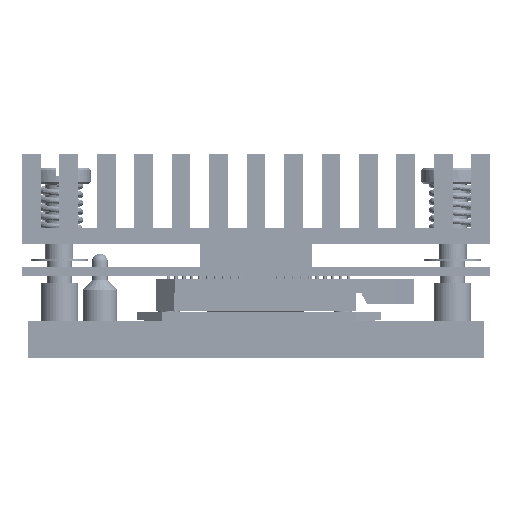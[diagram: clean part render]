
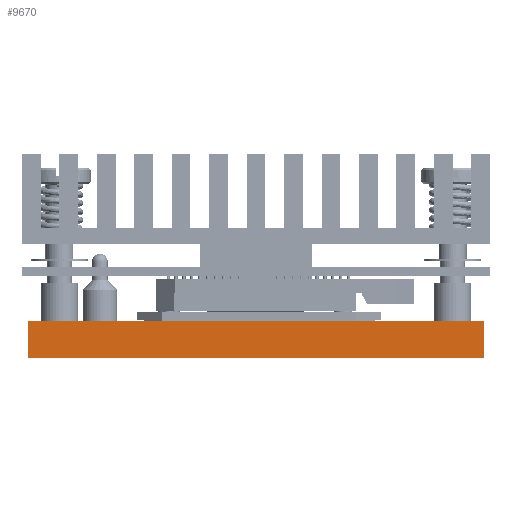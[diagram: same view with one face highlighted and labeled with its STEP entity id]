
A CAD part, front view. The second image highlights one B-rep face of the part: STEP entity #9670.
In plain terms, the highlighted planar face has unit normal (0, -1, 0).
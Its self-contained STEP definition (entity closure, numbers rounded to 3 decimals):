
#71 = DIRECTION ( 'NONE',  ( 1., 0., 0. ) ) ;
#6613 = CARTESIAN_POINT ( 'NONE',  ( -36.5, -22.5, 3. ) ) ;
#6731 = VECTOR ( 'NONE', #21873, 1000. ) ;
#9415 = CARTESIAN_POINT ( 'NONE',  ( -36.5, -22.5, -3. ) ) ;
#9670 = ADVANCED_FACE ( 'NONE', ( #91033 ), #18245, .F. ) ;
#11321 = CARTESIAN_POINT ( 'NONE',  ( -36.5, -22.5, 3. ) ) ;
#12566 = DIRECTION ( 'NONE',  ( 0., 0., 1. ) ) ;
#18048 = CARTESIAN_POINT ( 'NONE',  ( 36.5, -22.5, -3. ) ) ;
#18245 = PLANE ( 'NONE',  #76658 ) ;
#19623 = DIRECTION ( 'NONE',  ( 0., 1., 0. ) ) ;
#21396 = LINE ( 'NONE', #65066, #6731 ) ;
#21494 = EDGE_LOOP ( 'NONE', ( #81930, #48455, #91893, #72794 ) ) ;
#21873 = DIRECTION ( 'NONE',  ( 1., 0., 0. ) ) ;
#24517 = DIRECTION ( 'NONE',  ( 0., 0., -1. ) ) ;
#25685 = EDGE_CURVE ( 'NONE', #73180, #79278, #60424, .T. ) ;
#25970 = CARTESIAN_POINT ( 'NONE',  ( 36.5, -22.5, 3. ) ) ;
#34875 = EDGE_CURVE ( 'NONE', #41572, #73180, #57313, .T. ) ;
#41076 = EDGE_CURVE ( 'NONE', #41572, #53901, #54547, .T. ) ;
#41555 = EDGE_CURVE ( 'NONE', #53901, #79278, #21396, .T. ) ;
#41572 = VERTEX_POINT ( 'NONE', #88506 ) ;
#48455 = ORIENTED_EDGE ( 'NONE', *, *, #41555, .T. ) ;
#50129 = VECTOR ( 'NONE', #24517, 1000. ) ;
#53398 = CARTESIAN_POINT ( 'NONE',  ( 36.5, -22.5, 3. ) ) ;
#53901 = VERTEX_POINT ( 'NONE', #9415 ) ;
#54547 = LINE ( 'NONE', #11321, #50129 ) ;
#57313 = LINE ( 'NONE', #6613, #87317 ) ;
#60424 = LINE ( 'NONE', #53398, #63653 ) ;
#63653 = VECTOR ( 'NONE', #82052, 1000. ) ;
#65066 = CARTESIAN_POINT ( 'NONE',  ( 0., -22.5, -3. ) ) ;
#72794 = ORIENTED_EDGE ( 'NONE', *, *, #34875, .F. ) ;
#73180 = VERTEX_POINT ( 'NONE', #25970 ) ;
#76658 = AXIS2_PLACEMENT_3D ( 'NONE', #83946, #19623, #12566 ) ;
#79278 = VERTEX_POINT ( 'NONE', #18048 ) ;
#81930 = ORIENTED_EDGE ( 'NONE', *, *, #41076, .T. ) ;
#82052 = DIRECTION ( 'NONE',  ( 0., 0., -1. ) ) ;
#83946 = CARTESIAN_POINT ( 'NONE',  ( -36.5, -22.5, 3. ) ) ;
#87317 = VECTOR ( 'NONE', #71, 1000. ) ;
#88506 = CARTESIAN_POINT ( 'NONE',  ( -36.5, -22.5, 3. ) ) ;
#91033 = FACE_OUTER_BOUND ( 'NONE', #21494, .T. ) ;
#91893 = ORIENTED_EDGE ( 'NONE', *, *, #25685, .F. ) ;
